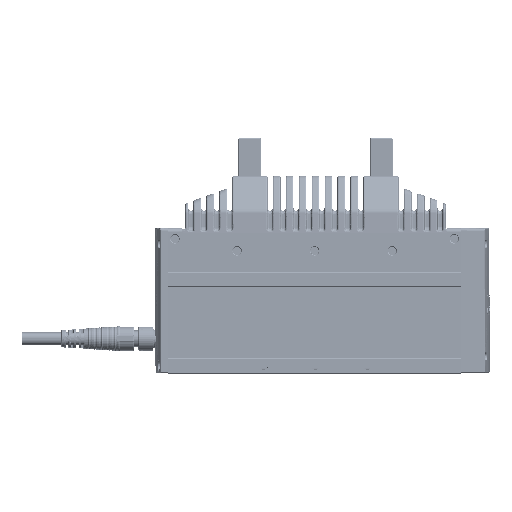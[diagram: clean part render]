
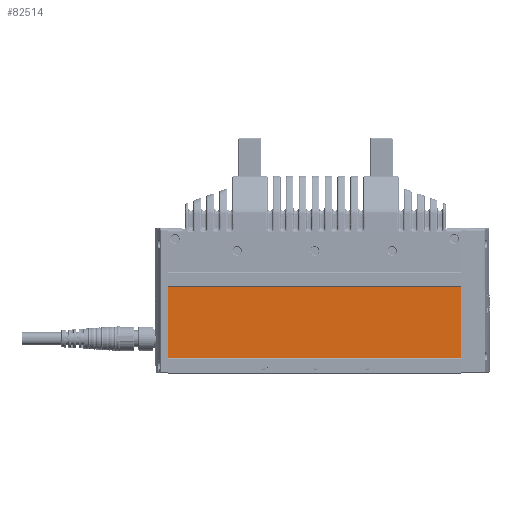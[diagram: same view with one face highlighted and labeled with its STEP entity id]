
A CAD part, top view. The second image highlights one B-rep face of the part: STEP entity #82514.
In plain terms, the highlighted planar face has unit normal (0, 0, 1).
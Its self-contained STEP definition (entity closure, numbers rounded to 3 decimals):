
#6008=PLANE('',#91593);
#10768=FACE_OUTER_BOUND('',#15723,.T.);
#15723=EDGE_LOOP('',(#74401,#74402,#74403,#74404));
#25836=LINE('',#198671,#30675);
#25867=LINE('',#198731,#30706);
#25872=LINE('',#198740,#30711);
#25874=LINE('',#198743,#30713);
#30675=VECTOR('',#114051,1000.);
#30706=VECTOR('',#114084,1000.);
#30711=VECTOR('',#114091,1000.);
#30713=VECTOR('',#114095,1000.);
#39512=VERTEX_POINT('',#198668);
#39513=VERTEX_POINT('',#198670);
#39540=VERTEX_POINT('',#198728);
#39541=VERTEX_POINT('',#198730);
#51323=EDGE_CURVE('',#39512,#39513,#25836,.T.);
#51354=EDGE_CURVE('',#39541,#39540,#25867,.T.);
#51359=EDGE_CURVE('',#39512,#39541,#25872,.T.);
#51361=EDGE_CURVE('',#39513,#39540,#25874,.T.);
#74401=ORIENTED_EDGE('',*,*,#51354,.T.);
#74402=ORIENTED_EDGE('',*,*,#51361,.F.);
#74403=ORIENTED_EDGE('',*,*,#51323,.F.);
#74404=ORIENTED_EDGE('',*,*,#51359,.T.);
#82514=ADVANCED_FACE('',(#10768),#6008,.F.);
#91593=AXIS2_PLACEMENT_3D('',#198742,#114093,#114094);
#114051=DIRECTION('',(0.,-1.,0.));
#114084=DIRECTION('',(0.,-1.,0.));
#114091=DIRECTION('',(-1.,0.,0.));
#114093=DIRECTION('center_axis',(0.,0.,
-1.));
#114094=DIRECTION('ref_axis',(0.,1.,0.));
#114095=DIRECTION('',(-1.,0.,0.));
#198668=CARTESIAN_POINT('',(84.5,50.5,23.7));
#198670=CARTESIAN_POINT('',(84.5,9.122,23.7));
#198671=CARTESIAN_POINT('',(84.5,50.5,23.7));
#198728=CARTESIAN_POINT('',(-85.5,9.122,23.7));
#198730=CARTESIAN_POINT('',(-85.5,50.5,23.7));
#198731=CARTESIAN_POINT('',(-85.5,50.5,23.7));
#198740=CARTESIAN_POINT('',(84.5,50.5,23.7));
#198742=CARTESIAN_POINT('Origin',(84.5,50.5,23.7));
#198743=CARTESIAN_POINT('',(84.5,9.122,23.7));
